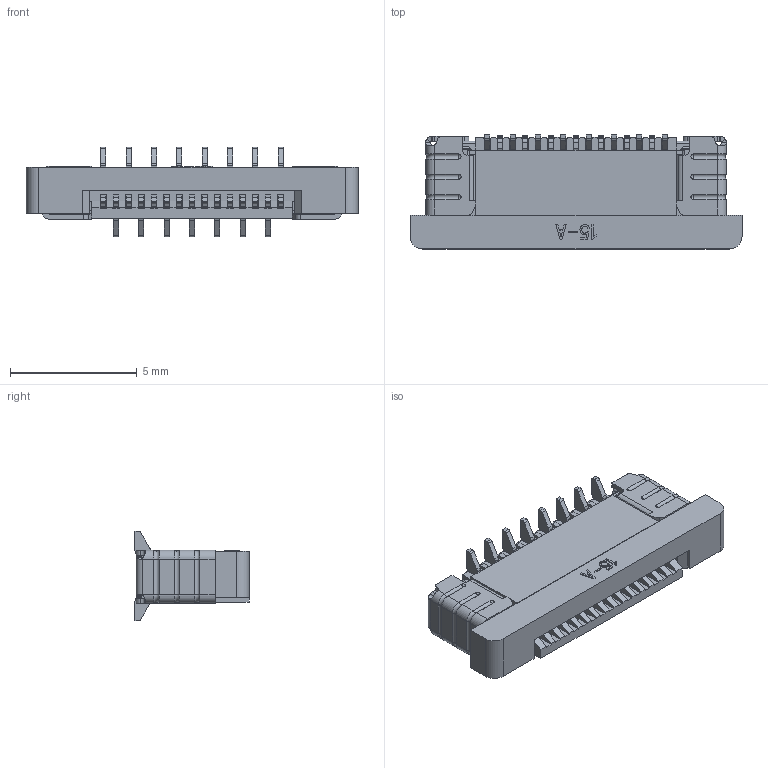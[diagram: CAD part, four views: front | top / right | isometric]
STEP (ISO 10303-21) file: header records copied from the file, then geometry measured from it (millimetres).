
FILE_DESCRIPTION((''),'2;1');
FILE_NAME('2004D-15P__ASM','2026-09-10T',('PMT1 SFT'),(''),'PRO/ENGINEER BY PARAMETRIC TECHNOLOGY CORPORATION, 2011490','PRO/ENGINEER BY PARAMETRIC TECHNOLOGY CORPORATION, 2011490','');
FILE_SCHEMA(('CONFIG_CONTROL_DESIGN'));
Length unit declared in the file: millimetre
Products named in the file (21): MANIFOLD_SOLID_BREP_188; MANIFOLD_SOLID_BREP_189; MANIFOLD_SOLID_BREP_190; MANIFOLD_SOLID_BREP_191; MANIFOLD_SOLID_BREP_192; MANIFOLD_SOLID_BREP_193; MANIFOLD_SOLID_BREP_194; MANIFOLD_SOLID_BREP_195; MANIFOLD_SOLID_BREP_196; MANIFOLD_SOLID_BREP_197; MANIFOLD_SOLID_BREP_198; MANIFOLD_SOLID_BREP_199; MANIFOLD_SOLID_BREP_200; MANIFOLD_SOLID_BREP_201; MANIFOLD_SOLID_BREP_202; MANIFOLD_SOLID_BREP_203; MANIFOLD_SOLID_BREP_204; MANIFOLD_SOLID_BREP_205; MANIFOLD_SOLID_BREP_206; 0_5K-A-14PB_STP_ASM; 2004D-15P__ASM
Assembly tree (20 placements, depth 3):
  2004D-15P__ASM
    0_5K-A-14PB_STP_ASM
      MANIFOLD_SOLID_BREP_188
      MANIFOLD_SOLID_BREP_189
      MANIFOLD_SOLID_BREP_190
      MANIFOLD_SOLID_BREP_191
      MANIFOLD_SOLID_BREP_192
      MANIFOLD_SOLID_BREP_193
      MANIFOLD_SOLID_BREP_194
      MANIFOLD_SOLID_BREP_195
      MANIFOLD_SOLID_BREP_196
      MANIFOLD_SOLID_BREP_197
      MANIFOLD_SOLID_BREP_198
      MANIFOLD_SOLID_BREP_199
      MANIFOLD_SOLID_BREP_200
      MANIFOLD_SOLID_BREP_201
      MANIFOLD_SOLID_BREP_202
      MANIFOLD_SOLID_BREP_203
      MANIFOLD_SOLID_BREP_204
      MANIFOLD_SOLID_BREP_205
      MANIFOLD_SOLID_BREP_206
Bounding box: 13.1 x 4.5 x 3.52 mm (x, y, z)
Volume: 85.2 mm3; surface area: 571.1 mm2
Topology: 19 solids, 19 shells, 1801 faces, 5426 edges, 3610 vertices
Faces by surface type: plane 1060, cylinder 696, sphere 12, torus 12, bspline 12, extrusion 9
Entity records: 62449 total; most frequent: CARTESIAN_POINT 11777, ORIENTED_EDGE 10852, DIRECTION 10539, EDGE_CURVE 5426, VECTOR 3895, LINE 3886, VERTEX_POINT 3610, AXIS2_PLACEMENT_3D 3322
